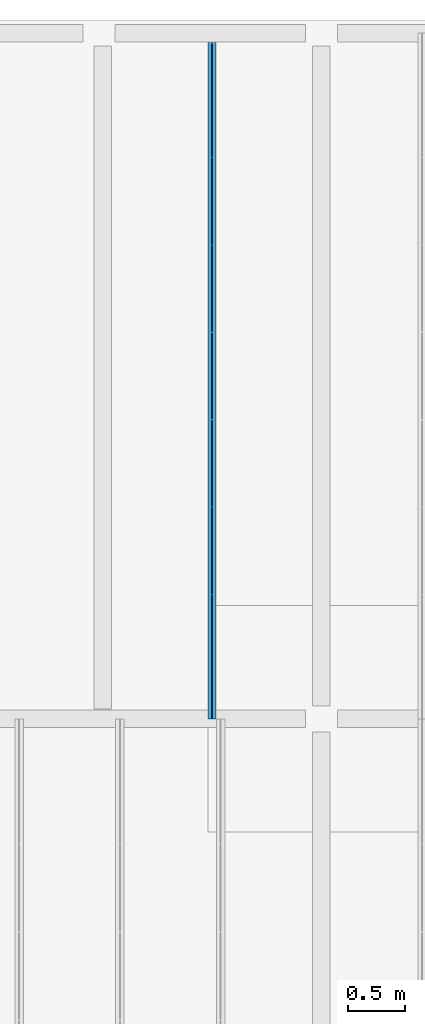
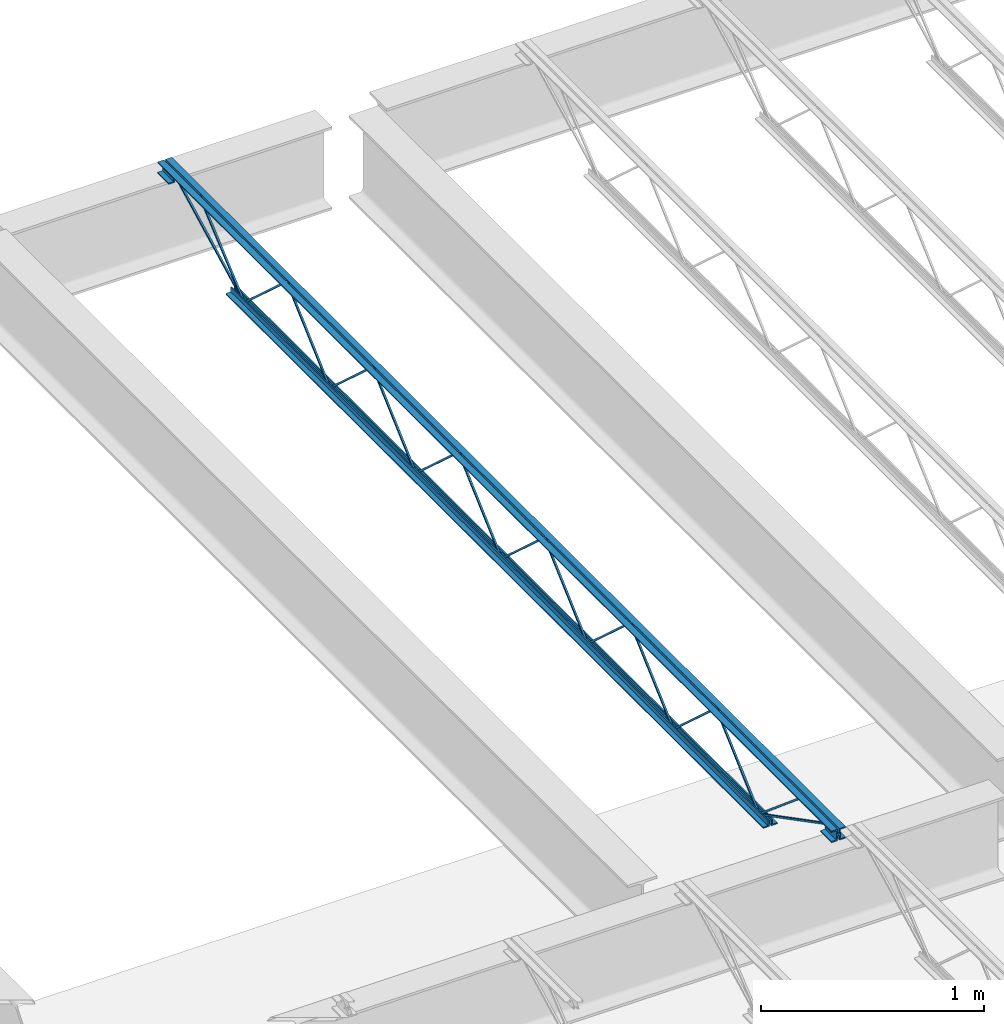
# One storey, part 48 of 75: 1 beam.
"""IFC2X3 building model written with IfcOpenShell, lengths in metres."""

from ifc_helpers import new_model, entity, si_unit, converted_unit, frame, origin, place, context, project, spatial, face_set, surface_model, element, save


model = new_model("IFC2X3")

# Units and contexts
model_context = context("Model", 3, precision=1e-09, world=origin())
plan_context = context("Plan", 3, precision=1e-09, world=origin())
ifc_project = project(units=[si_unit("LENGTHUNIT", "METRE"), si_unit("AREAUNIT", "SQUARE_METRE"), si_unit("VOLUMEUNIT", "CUBIC_METRE"), converted_unit("PLANEANGLEUNIT", "DEGREE", entity("IfcRatioMeasure", 0.01745329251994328), si_unit("PLANEANGLEUNIT", "RADIAN"), dimensions=[0, 0, 0, 0, 0, 0, 0]), si_unit("TIMEUNIT", "SECOND")], contexts=[model_context, plan_context])

# Site, building, storey
site_placement = place(None, origin())
site = spatial("IfcSite", under=ifc_project, at=site_placement, Name="Default", CompositionType="ELEMENT")
building_placement = place(site_placement, origin())
building = spatial("IfcBuilding", under=site, at=building_placement, CompositionType="ELEMENT")
storey_placement = place(building_placement, origin())
storey = spatial("IfcBuildingStorey", under=building, at=storey_placement, Name="First Floor", CompositionType="ELEMENT", Elevation=-3.531500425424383e-13)

# Beam
beam_placement = place(storey_placement, frame((-34.55150479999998, 50.09, 4.112000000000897)))
element("IfcBeam", 1, at=beam_placement, inside=storey, Name="M_K-Series Bar Joist-Rod Web:14K1:14K1", ObjectType="M_K-Series Bar Joist-Rod Web:14K1", context=model_context, shape_type="SurfaceModel", body=[
    surface_model("IfcFaceBasedSurfaceModel", [(0.04149999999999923, 3.795999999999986, 0.01110000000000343), (0.03200000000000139, 3.795999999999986, 0.01110000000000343), (0.03200000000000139, 3.795999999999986, 0.001600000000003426), (0.04149999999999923, 3.795999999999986, 0.001600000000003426), (0.03200000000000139, 3.797344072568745, 0.01110000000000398), (0.04149999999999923, 3.797344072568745, 0.01110000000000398), (0.03200000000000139, 3.801005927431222, 0.001600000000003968), (0.03200000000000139, 4.180155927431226, 0.3449000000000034), (0.03200000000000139, 4.182844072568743, 0.3449000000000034), (0.03200000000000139, 4.561994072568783, 0.001600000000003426), (0.03200000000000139, 4.566999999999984, 0.001600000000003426), (0.03200000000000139, 4.566999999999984, 0.01110000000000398), (0.03200000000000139, 4.56565592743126, 0.01110000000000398), (0.03200000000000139, 4.186505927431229, 0.3544000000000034), (0.03200000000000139, 4.176494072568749, 0.3544000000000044), (0.04149999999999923, 3.801005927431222, 0.001600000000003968), (0.04149999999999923, 4.180155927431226, 0.3449000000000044), (0.04149999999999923, 4.182844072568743, 0.3449000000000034), (0.04149999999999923, 4.561994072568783, 0.001600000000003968), (0.04149999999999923, 4.566999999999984, 0.001600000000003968), (0.04149999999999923, 4.566999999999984, 0.01110000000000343), (0.04149999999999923, 4.56565592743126, 0.01110000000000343), (0.04149999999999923, 4.186505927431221, 0.3544000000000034), (0.04149999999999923, 4.176494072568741, 0.3544000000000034), (0.04149999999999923, 3.024999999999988, 0.01110000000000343), (0.03200000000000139, 3.024999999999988, 0.01110000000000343), (0.03200000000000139, 3.024999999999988, 0.001600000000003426), (0.04149999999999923, 3.024999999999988, 0.001600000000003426), (0.03200000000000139, 3.026344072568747, 0.01110000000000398), (0.04149999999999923, 3.026344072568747, 0.01110000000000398), (0.03200000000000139, 3.030005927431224, 0.001600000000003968), (0.03200000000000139, 3.409155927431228, 0.3449000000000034), (0.03200000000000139, 3.411844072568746, 0.3449000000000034), (0.03200000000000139, 3.790994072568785, 0.001600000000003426), (0.03200000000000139, 3.795999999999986, 0.01110000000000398), (0.03200000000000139, 3.794655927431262, 0.01110000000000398), (0.03200000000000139, 3.415505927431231, 0.3544000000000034), (0.03200000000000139, 3.405494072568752, 0.3544000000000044), (0.04149999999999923, 3.030005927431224, 0.001600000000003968), (0.04149999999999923, 3.409155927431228, 0.3449000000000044), (0.04149999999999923, 3.411844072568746, 0.3449000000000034), (0.04149999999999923, 3.790994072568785, 0.001600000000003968), (0.04149999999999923, 3.795999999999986, 0.001600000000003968), (0.04149999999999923, 3.794655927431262, 0.01110000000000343), (0.04149999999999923, 3.415505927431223, 0.3544000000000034), (0.04149999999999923, 3.405494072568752, 0.3544000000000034), (0.04149999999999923, 2.25399999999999, 0.01110000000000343), (0.03200000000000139, 2.25399999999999, 0.01110000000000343), (0.03200000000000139, 2.25399999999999, 0.001600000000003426), (0.04149999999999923, 2.25399999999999, 0.001600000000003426), (0.03200000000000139, 2.255344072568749, 0.01110000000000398), (0.04149999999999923, 2.255344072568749, 0.01110000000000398), (0.03200000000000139, 2.259005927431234, 0.001600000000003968), (0.03200000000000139, 2.63815592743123, 0.3449000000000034), (0.03200000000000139, 2.640844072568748, 0.3449000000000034), (0.03200000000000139, 3.019994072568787, 0.001600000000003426), (0.03200000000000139, 3.024999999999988, 0.01110000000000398), (0.03200000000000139, 3.023655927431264, 0.01110000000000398), (0.03200000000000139, 2.644505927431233, 0.3544000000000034), (0.03200000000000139, 2.634494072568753, 0.3544000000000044), (0.04149999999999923, 2.259005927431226, 0.001600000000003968), (0.04149999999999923, 2.63815592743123, 0.3449000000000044), (0.04149999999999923, 2.640844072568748, 0.3449000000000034), (0.04149999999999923, 3.019994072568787, 0.001600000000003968), (0.04149999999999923, 3.024999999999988, 0.001600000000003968), (0.04149999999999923, 3.023655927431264, 0.01110000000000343), (0.04149999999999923, 2.644505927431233, 0.3544000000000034), (0.04149999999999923, 2.634494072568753, 0.3544000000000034), (0.04149999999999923, 1.482999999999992, 0.01110000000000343), (0.03200000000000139, 1.482999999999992, 0.01110000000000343), (0.03200000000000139, 1.482999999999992, 0.001600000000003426), (0.04149999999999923, 1.482999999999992, 0.001600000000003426), (0.03200000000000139, 1.484344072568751, 0.01110000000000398), (0.04149999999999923, 1.484344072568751, 0.01110000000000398), (0.03200000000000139, 1.488005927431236, 0.001600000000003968), (0.03200000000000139, 1.867155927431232, 0.3449000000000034), (0.03200000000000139, 1.869844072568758, 0.3449000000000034), (0.03200000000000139, 2.248994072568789, 0.001600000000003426), (0.03200000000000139, 2.253999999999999, 0.001600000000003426), (0.03200000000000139, 2.25399999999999, 0.01110000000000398), (0.03200000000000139, 2.252655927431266, 0.01110000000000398), (0.03200000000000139, 1.873505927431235, 0.3544000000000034), (0.03200000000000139, 1.863494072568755, 0.3544000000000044), (0.04149999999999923, 1.488005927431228, 0.001600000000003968), (0.04149999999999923, 1.867155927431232, 0.3449000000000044), (0.04149999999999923, 1.86984407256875, 0.3449000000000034), (0.04149999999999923, 2.248994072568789, 0.001600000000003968), (0.04149999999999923, 2.25399999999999, 0.001600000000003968), (0.04149999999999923, 2.253999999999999, 0.01110000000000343), (0.04149999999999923, 2.252655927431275, 0.01110000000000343), (0.04149999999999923, 1.873505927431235, 0.3544000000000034), (0.04149999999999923, 1.863494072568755, 0.3544000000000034), (0.0414999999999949, 4.566999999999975, 0.01109999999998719), (0.03199999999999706, 4.566999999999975, 0.01109999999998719), (0.03199999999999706, 4.566999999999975, 0.001599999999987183), (0.0414999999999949, 4.566999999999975, 0.001599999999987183), (0.03200000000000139, 4.568344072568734, 0.01109999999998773), (0.04149999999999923, 4.568344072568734, 0.01109999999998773), (0.03199999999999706, 4.57200592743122, 0.001599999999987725), (0.03199999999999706, 4.951155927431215, 0.3448999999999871), (0.03199999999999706, 4.953844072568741, 0.3448999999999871), (0.03199999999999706, 5.332994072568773, 0.001599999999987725), (0.03199999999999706, 5.337999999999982, 0.001599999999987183), (0.03199999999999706, 5.337999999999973, 0.01109999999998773), (0.03199999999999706, 5.33665592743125, 0.01109999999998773), (0.03199999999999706, 4.957505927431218, 0.3543999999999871), (0.03199999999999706, 4.947494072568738, 0.3543999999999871), (0.0414999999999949, 4.572005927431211, 0.001599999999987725), (0.04149999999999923, 4.951155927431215, 0.3448999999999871), (0.04149999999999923, 4.953844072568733, 0.3448999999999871), (0.04149999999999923, 5.332994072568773, 0.001599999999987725), (0.04149999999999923, 5.337999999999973, 0.001599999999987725), (0.0414999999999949, 5.337999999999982, 0.01109999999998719), (0.04149999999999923, 5.336655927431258, 0.01109999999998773), (0.04149999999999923, 4.957505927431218, 0.3543999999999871), (0.04149999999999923, 4.947494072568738, 0.3543999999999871), (0.04149999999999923, 0.7120000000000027, 0.01110000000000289), (0.03200000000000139, 0.7120000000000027, 0.01110000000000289), (0.03200000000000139, 0.7120000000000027, 0.001600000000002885), (0.04149999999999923, 0.7120000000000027, 0.001600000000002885), (0.03200000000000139, 0.7133440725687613, 0.01110000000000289), (0.04149999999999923, 0.7133440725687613, 0.01110000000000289), (0.03200000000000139, 0.7170059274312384, 0.001600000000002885), (0.03200000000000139, 1.096155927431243, 0.3449000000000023), (0.03200000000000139, 1.09884407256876, 0.3449000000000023), (0.03200000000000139, 1.4779940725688, 0.001600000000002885), (0.03200000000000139, 1.483000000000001, 0.001600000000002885), (0.03200000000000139, 1.483000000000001, 0.01110000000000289), (0.03200000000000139, 1.481655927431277, 0.01110000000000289), (0.03200000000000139, 1.102505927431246, 0.3544000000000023), (0.03200000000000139, 1.092494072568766, 0.3544000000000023), (0.04149999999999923, 0.7170059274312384, 0.001600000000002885), (0.04149999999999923, 1.096155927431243, 0.3449000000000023), (0.04149999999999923, 1.09884407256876, 0.3449000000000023), (0.04149999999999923, 1.4779940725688, 0.001600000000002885), (0.04149999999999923, 1.483000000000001, 0.001600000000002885), (0.04149999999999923, 1.483000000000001, 0.01110000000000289), (0.04149999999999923, 1.481655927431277, 0.01110000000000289), (0.04149999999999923, 1.102505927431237, 0.3544000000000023), (0.04149999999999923, 1.092494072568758, 0.3544000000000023), (0.03200000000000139, 6.049999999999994, 0.3559999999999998), (0.0, 6.049999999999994, 0.3559999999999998), (0.0, 6.049999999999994, 0.349499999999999), (0.02550000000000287, 6.049999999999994, 0.349499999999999), (0.02550000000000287, 6.049999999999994, 0.3239999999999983), (0.03200000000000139, 6.049999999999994, 0.3239999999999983), (0.04149999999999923, 6.049999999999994, 0.3559999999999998), (0.04149999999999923, 6.049999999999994, 0.3239999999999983), (0.04800000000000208, 6.049999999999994, 0.3239999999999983), (0.04800000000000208, 6.049999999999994, 0.349499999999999), (0.07350000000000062, 6.049999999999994, 0.349499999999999), (0.07350000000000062, 6.049999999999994, 0.3559999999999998), (0.03200000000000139, 0.0, 0.3559999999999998), (0.0, 0.0, 0.3559999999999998), (0.0, 0.0, 0.349499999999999), (0.02550000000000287, 0.0, 0.349499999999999), (0.02550000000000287, 0.0, 0.3239999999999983), (0.03200000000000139, 0.0, 0.3239999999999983), (0.04149999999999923, 0.0, 0.3559999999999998), (0.04149999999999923, 0.0, 0.3239999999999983), (0.04800000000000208, 0.0, 0.3239999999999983), (0.04800000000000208, 0.0, 0.349499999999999), (0.07350000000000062, 0.0, 0.349499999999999), (0.07350000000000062, 0.0, 0.3559999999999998), (0.04149999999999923, 0.09999999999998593, 0.2924999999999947), (0.07350000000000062, 0.09999999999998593, 0.2924999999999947), (0.07350000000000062, 0.09999999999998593, 0.2989999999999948), (0.04799999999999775, 0.09999999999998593, 0.2989999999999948), (0.04799999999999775, 0.09999999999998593, 0.3239999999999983), (0.04149999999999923, 0.09999999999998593, 0.3239999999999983), (0.0, 0.09999999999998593, 0.2924999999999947), (0.03200000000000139, 0.09999999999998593, 0.2924999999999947), (0.03200000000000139, 0.09999999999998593, 0.3239999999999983), (0.02549999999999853, 0.09999999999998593, 0.3239999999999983), (0.02549999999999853, 0.09999999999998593, 0.2989999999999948), (0.0, 0.09999999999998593, 0.2989999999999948), (0.04149999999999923, 0.0, 0.2924999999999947), (0.07350000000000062, 0.0, 0.2924999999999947), (0.07350000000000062, 0.0, 0.2989999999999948), (0.04799999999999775, 0.0, 0.2989999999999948), (0.04799999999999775, 0.0, 0.3239999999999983), (0.0, 0.0, 0.2924999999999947), (0.03200000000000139, 0.0, 0.2924999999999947), (0.02549999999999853, 0.0, 0.3239999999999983), (0.02549999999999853, 0.0, 0.2989999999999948), (0.0, 0.0, 0.2989999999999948), (0.03200000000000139, 6.049999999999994, 0.2924999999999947), (0.02549999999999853, 6.049999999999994, 0.3239999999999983), (0.02549999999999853, 6.049999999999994, 0.2989999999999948), (0.0, 6.049999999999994, 0.2989999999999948), (0.0, 6.049999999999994, 0.2924999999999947), (0.04149999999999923, 6.049999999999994, 0.2924999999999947), (0.07350000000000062, 6.049999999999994, 0.2924999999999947), (0.07350000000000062, 6.049999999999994, 0.2989999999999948), (0.04799999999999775, 6.049999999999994, 0.2989999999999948), (0.04799999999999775, 6.049999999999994, 0.3239999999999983), (0.03200000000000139, 5.949999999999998, 0.2924999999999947), (0.03200000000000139, 5.949999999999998, 0.3239999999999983), (0.02549999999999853, 5.949999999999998, 0.3239999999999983), (0.02549999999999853, 5.949999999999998, 0.2989999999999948), (0.0, 5.949999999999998, 0.2989999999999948), (0.0, 5.949999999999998, 0.2924999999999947), (0.04149999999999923, 5.949999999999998, 0.2924999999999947), (0.07350000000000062, 5.949999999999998, 0.2924999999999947), (0.07350000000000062, 5.949999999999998, 0.2989999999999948), (0.04799999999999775, 5.949999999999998, 0.2989999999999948), (0.04799999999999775, 5.949999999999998, 0.3239999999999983), (0.04149999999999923, 5.949999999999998, 0.3239999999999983), (0.03200000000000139, 5.438000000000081, 0.0), (0.03200000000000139, 5.438000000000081, 0.03199999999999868), (0.02550000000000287, 5.438000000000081, 0.03199999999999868), (0.02550000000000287, 5.438000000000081, 0.006499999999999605), (0.0, 5.438000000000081, 0.006499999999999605), (0.0, 5.438000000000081, 0.0), (0.04149999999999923, 5.438000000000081, 0.0), (0.07350000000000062, 5.438000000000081, 0.0), (0.07350000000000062, 5.438000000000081, 0.006499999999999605), (0.04800000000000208, 5.438000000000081, 0.006499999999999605), (0.04800000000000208, 5.438000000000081, 0.03199999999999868), (0.04149999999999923, 5.438000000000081, 0.03199999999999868), (0.03200000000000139, 0.6120000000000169, 0.0), (0.03200000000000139, 0.6120000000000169, 0.03199999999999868), (0.02550000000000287, 0.6120000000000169, 0.03199999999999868), (0.02550000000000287, 0.6120000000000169, 0.006499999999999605), (0.0, 0.6120000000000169, 0.006499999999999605), (0.0, 0.6120000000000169, 0.0), (0.04149999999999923, 0.6120000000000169, 0.0), (0.07350000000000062, 0.6120000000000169, 0.0), (0.07350000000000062, 0.6120000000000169, 0.006499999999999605), (0.04800000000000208, 0.6120000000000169, 0.006499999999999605), (0.04800000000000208, 0.6120000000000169, 0.03199999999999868), (0.04149999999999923, 0.6120000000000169, 0.03199999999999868), (0.04149999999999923, 0.7141882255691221, 0.01056594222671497), (0.03200000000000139, 0.7141882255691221, 0.01056594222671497), (0.03200000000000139, 0.7098117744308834, 0.002134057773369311), (0.04149999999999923, 0.7098117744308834, 0.002134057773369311), (0.04149999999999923, 0.101159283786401, 0.3287499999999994), (0.04149999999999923, 0.0, 0.3287499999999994), (0.04149999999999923, 0.0, 0.3192499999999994), (0.04149999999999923, 0.09884071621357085, 0.3192499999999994), (0.03200000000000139, 0.09884071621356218, 0.3192499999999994), (0.03200000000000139, 0.101159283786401, 0.3287499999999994), (0.03200000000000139, 0.0, 0.3287499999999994), (0.03200000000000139, 0.0, 0.3192499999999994), (0.04149999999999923, 0.3065428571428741, 0.341700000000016), (0.03200000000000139, 0.3065428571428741, 0.341700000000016), (0.03200000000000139, 0.3065428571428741, 0.332200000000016), (0.04149999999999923, 0.3065428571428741, 0.332200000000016), (0.03200000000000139, 0.3209758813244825, 0.341700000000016), (0.04149999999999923, 0.3209758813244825, 0.341700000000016), (0.03200000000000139, 0.3175098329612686, 0.332200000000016), (0.03200000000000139, 0.7089411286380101, 0.002716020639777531), (0.03200000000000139, 0.7150588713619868, 0.009983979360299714), (0.04149999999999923, 0.3175098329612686, 0.332200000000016), (0.04149999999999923, 0.7089411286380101, 0.002716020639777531), (0.04149999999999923, 0.7150588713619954, 0.009983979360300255), (0.04149999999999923, 5.952188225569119, 0.3197840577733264), (0.04149999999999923, 5.947811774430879, 0.3282159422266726), (0.03200000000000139, 5.947811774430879, 0.3282159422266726), (0.03200000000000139, 5.952188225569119, 0.3197840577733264), (0.04149999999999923, 5.340188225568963, 0.002134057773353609), (0.04149999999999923, 5.335811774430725, 0.01056594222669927), (0.03200000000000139, 5.335811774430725, 0.01056594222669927), (0.03200000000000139, 5.340188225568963, 0.002134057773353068), (0.04149999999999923, 5.741107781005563, 0.3460454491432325), (0.04149999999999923, 5.734920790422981, 0.3532545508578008), (0.03200000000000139, 5.734920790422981, 0.3532545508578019), (0.03200000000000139, 5.741107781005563, 0.3460454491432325), (0.04149999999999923, 5.341093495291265, 0.002745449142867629), (0.04149999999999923, 5.334906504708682, 0.009954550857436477), (0.03200000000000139, 5.334906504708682, 0.009954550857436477), (0.03200000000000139, 5.341093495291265, 0.002745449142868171)], [face_set([[[0, 1, 2, 3]], [[1, 4, 5, 0]], [[2, 6, 7, 8, 9, 10, 11, 12, 13, 14, 4, 1]], [[3, 2, 6, 15]], [[0, 3, 15, 16, 17, 18, 19, 20, 21, 22, 23, 5]], [[4, 5, 23, 14]], [[15, 16, 7, 6]], [[14, 13, 22, 23]], [[16, 7, 8, 17]], [[13, 12, 21, 22]], [[17, 8, 9, 18]], [[20, 11, 10, 19]], [[12, 11, 20, 21]], [[18, 9, 10, 19]]]), face_set([[[24, 25, 26, 27]], [[25, 28, 29, 24]], [[26, 30, 31, 32, 33, 2, 34, 35, 36, 37, 28, 25]], [[27, 26, 30, 38]], [[24, 27, 38, 39, 40, 41, 42, 0, 43, 44, 45, 29]], [[28, 29, 45, 37]], [[38, 39, 31, 30]], [[37, 36, 44, 45]], [[39, 31, 32, 40]], [[36, 35, 43, 44]], [[40, 32, 33, 41]], [[0, 34, 2, 42]], [[35, 34, 0, 43]], [[41, 33, 2, 42]]]), face_set([[[46, 47, 48, 49]], [[47, 50, 51, 46]], [[48, 52, 53, 54, 55, 26, 56, 57, 58, 59, 50, 47]], [[49, 48, 52, 60]], [[46, 49, 60, 61, 62, 63, 64, 24, 65, 66, 67, 51]], [[50, 51, 67, 59]], [[60, 61, 53, 52]], [[59, 58, 66, 67]], [[61, 53, 54, 62]], [[58, 57, 65, 66]], [[62, 54, 55, 63]], [[24, 56, 26, 64]], [[57, 56, 24, 65]], [[63, 55, 26, 64]]]), face_set([[[68, 69, 70, 71]], [[69, 72, 73, 68]], [[70, 74, 75, 76, 77, 78, 79, 80, 81, 82, 72, 69]], [[71, 70, 74, 83]], [[68, 71, 83, 84, 85, 86, 87, 88, 89, 90, 91, 73]], [[72, 73, 91, 82]], [[83, 84, 75, 74]], [[82, 81, 90, 91]], [[84, 75, 76, 85]], [[81, 80, 89, 90]], [[85, 76, 77, 86]], [[88, 79, 78, 87]], [[80, 79, 88, 89]], [[86, 77, 78, 87]]]), face_set([[[92, 93, 94, 95]], [[93, 96, 97, 92]], [[94, 98, 99, 100, 101, 102, 103, 104, 105, 106, 96, 93]], [[95, 94, 98, 107]], [[92, 95, 107, 108, 109, 110, 111, 112, 113, 114, 115, 97]], [[96, 97, 115, 106]], [[107, 108, 99, 98]], [[106, 105, 114, 115]], [[108, 99, 100, 109]], [[105, 104, 113, 114]], [[109, 100, 101, 110]], [[112, 103, 102, 111]], [[104, 103, 112, 113]], [[110, 101, 102, 111]]]), face_set([[[116, 117, 118, 119]], [[117, 120, 121, 116]], [[118, 122, 123, 124, 125, 126, 127, 128, 129, 130, 120, 117]], [[119, 118, 122, 131]], [[116, 119, 131, 132, 133, 134, 135, 136, 137, 138, 139, 121]], [[120, 121, 139, 130]], [[131, 132, 123, 122]], [[130, 129, 138, 139]], [[132, 123, 124, 133]], [[129, 128, 137, 138]], [[133, 124, 125, 134]], [[136, 127, 126, 135]], [[128, 127, 136, 137]], [[134, 125, 126, 135]]]), face_set([[[140, 141, 142, 143, 144, 145]], [[146, 147, 148, 149, 150, 151]], [[152, 153, 154, 155, 156, 157]], [[158, 159, 160, 161, 162, 163]], [[145, 140, 152, 157]], [[144, 145, 157, 156]], [[143, 155, 156, 144]], [[142, 143, 155, 154]], [[141, 153, 154, 142]], [[140, 152, 153, 141]], [[151, 163, 158, 146]], [[150, 151, 163, 162]], [[149, 150, 162, 161]], [[148, 149, 161, 160]], [[147, 148, 160, 159]], [[146, 158, 159, 147]]]), face_set([[[164, 165, 166, 167, 168, 169]], [[170, 171, 172, 173, 174, 175]], [[176, 177, 178, 179, 180, 159]], [[181, 182, 157, 183, 184, 185]], [[169, 159, 176, 164]], [[168, 180, 159, 169]], [[167, 168, 180, 179]], [[166, 178, 179, 167]], [[165, 166, 178, 177]], [[164, 165, 177, 176]], [[175, 185, 181, 170]], [[174, 184, 185, 175]], [[173, 183, 184, 174]], [[172, 157, 183, 173]], [[171, 172, 157, 182]], [[170, 171, 182, 181]]]), face_set([[[186, 145, 187, 188, 189, 190]], [[191, 192, 193, 194, 195, 147]], [[196, 197, 198, 199, 200, 201]], [[202, 203, 204, 205, 206, 207]], [[190, 186, 196, 201]], [[189, 200, 201, 190]], [[188, 199, 200, 189]], [[187, 198, 199, 188]], [[145, 197, 198, 187]], [[186, 145, 197, 196]], [[147, 207, 202, 191]], [[195, 206, 207, 147]], [[194, 195, 206, 205]], [[193, 204, 205, 194]], [[192, 193, 204, 203]], [[191, 192, 203, 202]]]), face_set([[[208, 209, 210, 211, 212, 213]], [[214, 215, 216, 217, 218, 219]], [[220, 221, 222, 223, 224, 225]], [[226, 227, 228, 229, 230, 231]], [[213, 208, 220, 225]], [[212, 224, 225, 213]], [[211, 223, 224, 212]], [[210, 222, 223, 211]], [[209, 221, 222, 210]], [[208, 209, 221, 220]], [[219, 231, 226, 214]], [[218, 230, 231, 219]], [[217, 218, 230, 229]], [[216, 228, 229, 217]], [[215, 216, 228, 227]], [[214, 215, 227, 226]]]), face_set([[[232, 233, 234, 235]], [[235, 232, 236, 237, 238, 239]], [[234, 235, 239, 240]], [[233, 241, 242, 243, 240, 234]], [[232, 236, 241, 233]], [[237, 242, 243, 238]], [[240, 239, 238, 243]], [[236, 237, 242, 241]]]), face_set([[[244, 245, 246, 247]], [[245, 248, 249, 244]], [[246, 250, 251, 252, 248, 245]], [[247, 246, 250, 253]], [[244, 247, 253, 254, 255, 249]], [[255, 252, 251, 254]], [[248, 252, 255, 249]], [[253, 250, 251, 254]]]), face_set([[[256, 257, 258, 259]], [[260, 261, 262, 263]], [[259, 263, 260, 256]], [[258, 262, 263, 259]], [[257, 258, 262, 261]], [[256, 257, 261, 260]]]), face_set([[[264, 265, 266, 267]], [[268, 269, 270, 271]], [[267, 271, 268, 264]], [[266, 270, 271, 267]], [[265, 266, 270, 269]], [[264, 265, 269, 268]]])]),
])

save(model, "model.ifc")
